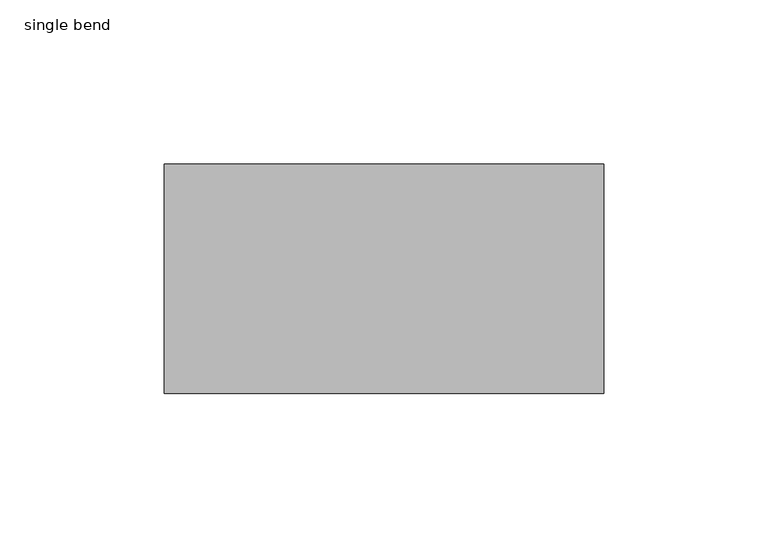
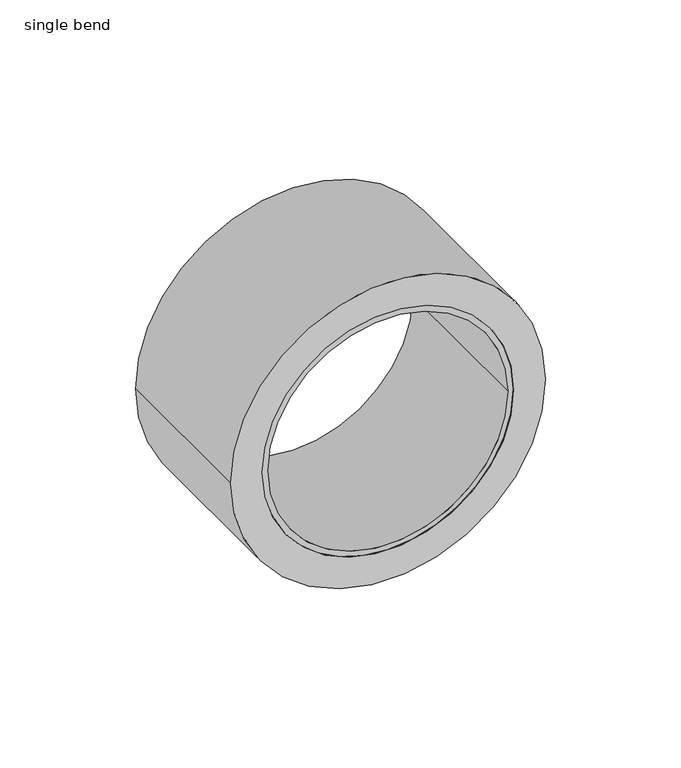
"""IFC4 building model written with IfcOpenShell, lengths in millimetres: pipe fitting geometry, PIF_ST_UN_GM-X compound pipe multi-bend_ACO : single bend."""

from ifc_helpers import new_model, si_unit, point, frame, origin, origin_2d, place, context, project, spatial, polyline, circle_curve, trimmed, segment, composite_curve, outline, extrude, source, transform, mapped, element, save
from ifc_brep_helpers import plane_surface, cylinder_surface, revolved_surface, advanced_brep


def single_bend_deb9c283(model_context):
    return source(origin(), model_context, "Body", "SolidModel", [
        extrude(outline(composite_curve([segment(trimmed(circle_curve(origin_2d(), 67.0), [point((0.0, 67.0))], [point((0.0, -67.0))], False, "CARTESIAN"), True, "CONTINUOUS"), segment(trimmed(circle_curve(origin_2d(), 67.0), [point((0.0, -67.0))], [point((0.0, 67.0))], False, "CARTESIAN"), True, "CONTINUOUS")], self_intersect=False), holes=[composite_curve([segment(trimmed(circle_curve(origin_2d(), 53.5), [point((0.0, 53.5))], [point((0.0, -53.5))], True, "CARTESIAN"), True, "CONTINUOUS"), segment(trimmed(circle_curve(origin_2d(), 53.5), [point((0.0, -53.5))], [point((0.0, 53.5))], True, "CARTESIAN"), True, "CONTINUOUS")], self_intersect=False)]), frame((0.0, 91.4, 0.0), z_axis=(0.0, 1.0, 0.0), x_axis=(0.0, 0.0, 1.0)), (0.0, 0.0, 1.0), 70.0),
        advanced_brep(
        [(53.5, 161.4, 0.0), (-53.5, 161.4, 0.0), (-51.0, 161.4, 0.0), (51.0, 161.4, 0.0), (53.5, 91.4, 0.0), (-53.5, 91.4, 0.0), (51.0, 91.4, 0.0), (-51.0, 91.4, 0.0), (53.5, 128.4, 0.0), (-53.5, 128.4, 0.0), (-53.5, 99.7, 0.0), (53.5, 99.7, 0.0), (59.0, 128.4, 0.0), (-59.0, 128.4, 0.0), (59.0, 99.7, 0.0), (-59.0, 99.7, 0.0)],
        [
            (0, 1, circle_curve(frame((0.0, 161.4, 0.0), z_axis=(0.0, 1.0, 0.0), x_axis=(-1.0, 0.0, 0.0)), 53.5)),
            (1, 0, circle_curve(frame((0.0, 161.4, 0.0), z_axis=(0.0, 1.0, 0.0), x_axis=(-1.0, 0.0, 0.0)), 53.5)),
            (2, 3, circle_curve(frame((0.0, 161.4, 0.0), z_axis=(0.0, -1.0, 0.0), x_axis=(-1.0, 0.0, 0.0)), 51.0)),
            (3, 2, circle_curve(frame((0.0, 161.4, 0.0), z_axis=(0.0, -1.0, 0.0), x_axis=(-1.0, 0.0, 0.0)), 51.0)),
            (4, 5, circle_curve(frame((0.0, 91.4, 0.0), z_axis=(0.0, -1.0, 0.0), x_axis=(-1.0, 0.0, 0.0)), 53.5)),
            (5, 4, circle_curve(frame((0.0, 91.4, 0.0), z_axis=(0.0, -1.0, 0.0), x_axis=(-1.0, 0.0, 0.0)), 53.5)),
            (6, 7, circle_curve(frame((0.0, 91.4, 0.0), z_axis=(0.0, 1.0, 0.0), x_axis=(-1.0, 0.0, 0.0)), 51.0)),
            (7, 6, circle_curve(frame((0.0, 91.4, 0.0), z_axis=(0.0, 1.0, 0.0), x_axis=(-1.0, 0.0, 0.0)), 51.0)),
            (0, 8),
            (8, 9, circle_curve(frame((0.0, 128.4, 0.0), z_axis=(0.0, 1.0, 0.0), x_axis=(-1.0, 0.0, 0.0)), 53.5)),
            (9, 1),
            (5, 10),
            (10, 11, circle_curve(frame((0.0, 99.7, 0.0), z_axis=(0.0, -1.0, 0.0), x_axis=(-1.0, 0.0, 0.0)), 53.5)),
            (11, 4),
            (9, 8, circle_curve(frame((0.0, 128.4, 0.0), z_axis=(0.0, 1.0, 0.0), x_axis=(-1.0, 0.0, 0.0)), 53.5)),
            (11, 10, circle_curve(frame((0.0, 99.7, 0.0), z_axis=(0.0, -1.0, 0.0), x_axis=(-1.0, 0.0, 0.0)), 53.5)),
            (2, 7),
            (6, 3),
            (12, 13, circle_curve(frame((0.0, 128.4, 0.0), z_axis=(0.0, 1.0, 0.0), x_axis=(-1.0, 0.0, 0.0)), 59.0)),
            (13, 12, circle_curve(frame((0.0, 128.4, 0.0), z_axis=(0.0, 1.0, 0.0), x_axis=(-1.0, 0.0, 0.0)), 59.0)),
            (14, 15, circle_curve(frame((0.0, 99.7, 0.0), z_axis=(0.0, -1.0, 0.0), x_axis=(-1.0, 0.0, 0.0)), 59.0)),
            (15, 14, circle_curve(frame((0.0, 99.7, 0.0), z_axis=(0.0, -1.0, 0.0), x_axis=(-1.0, 0.0, 0.0)), 59.0)),
            (12, 14),
            (15, 13),
        ],
        [
            plane_surface(frame((-53.5, 161.4, 0.0), z_axis=(0.0, 1.0, 0.0), x_axis=(0.0, 0.0, 1.0))),
            plane_surface(frame((-53.5, 91.4, 0.0), z_axis=(0.0, -1.0, 0.0), x_axis=(0.0, 0.0, -1.0))),
            cylinder_surface(frame((0.0, 91.4, 0.0), z_axis=(0.0, 1.0, 0.0), x_axis=(-1.0, 0.0, 0.0)), 53.5),
            revolved_surface(polyline([(-51.0, 161.4, 0.0), (-51.0, 91.4, 0.0)]), (0.0, 91.4, 0.0), (0.0, 1.0, 0.0)),
            plane_surface(frame((-59.0, 128.4, 0.0), z_axis=(0.0, 1.0, 0.0), x_axis=(0.0, 0.0, 1.0))),
            plane_surface(frame((-59.0, 99.7, 0.0), z_axis=(0.0, -1.0, 0.0), x_axis=(0.0, 0.0, -1.0))),
            cylinder_surface(frame((0.0, 99.7, 0.0), z_axis=(0.0, 1.0, 0.0), x_axis=(-1.0, 0.0, 0.0)), 59.0),
        ],
        [
            (0, [[1, 2], [3, 4]]),
            (1, [[5, 6], [7, 8]]),
            (2, [[-1, 9, 10, 11]]),
            (2, [[-6, 12, 13, 14]]),
            (2, [[-2, -11, 15, -9]]),
            (2, [[-5, -14, 16, -12]]),
            (3, [[17, -7, 18, -3]]),
            (3, [[-17, -4, -18, -8]]),
            (4, [[19, 20], [-10, -15]]),
            (5, [[21, 22], [-13, -16]]),
            (6, [[-19, 23, -22, 24]]),
            (6, [[-20, -24, -21, -23]]),
        ],
    ),
    ])


if __name__ == "__main__":
    model = new_model("IFC4")
    model_context = context("Model", 3, world=origin())
    ifc_project = project(units=[si_unit("LENGTHUNIT", "METRE", prefix="MILLI")], contexts=[model_context])
    site = spatial("IfcSite", under=ifc_project)
    building = spatial("IfcBuilding", under=site)
    placement = place(None, origin())
    single_bend_shape = single_bend_deb9c283(model_context)
    element("IfcPipeFitting", 1, ObjectType="PIF_ST_UN_GM-X compound pipe multi-bend_ACO : single bend", at=placement, inside=building, context=model_context, shape_type="MappedRepresentation", body=[
        mapped(single_bend_shape, transform((0.0, 0.0, 0.0), x_axis=(1.0, 0.0, 0.0), y_axis=(0.0, 1.0, 0.0), z_axis=(0.0, 0.0, 1.0))),
    ])
    save(model, "model.ifc")
